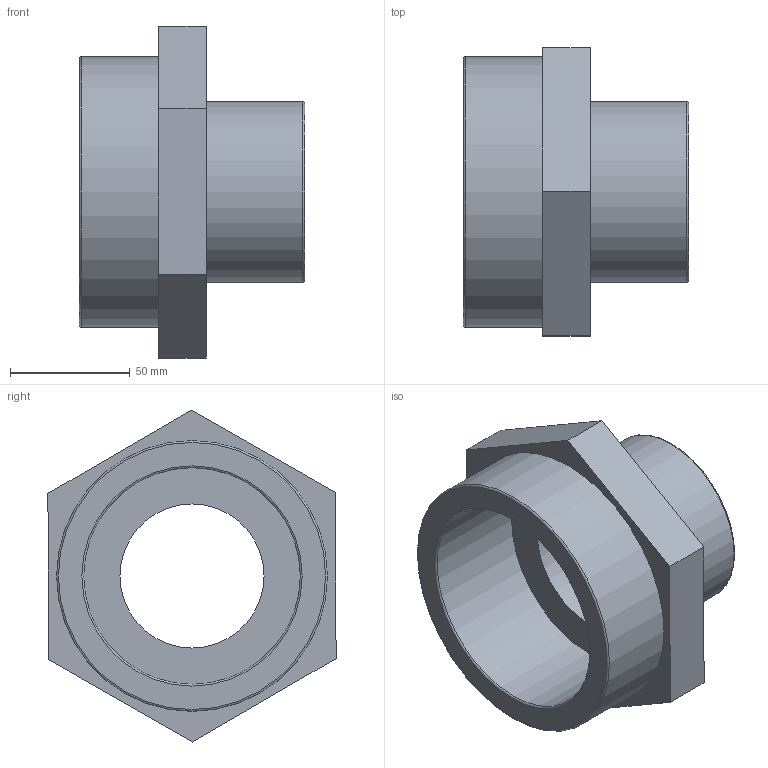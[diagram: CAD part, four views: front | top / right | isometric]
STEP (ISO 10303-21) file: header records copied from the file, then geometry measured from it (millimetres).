
FILE_DESCRIPTION(/* description */ ('PLASSON THR. REDUCING NIPPLE 4"-2.1/2" PVC'),/* implementation_level */ '2;1');
FILE_NAME(/* name */ 'C:\Dropbox\KIMPROJECTS-Inventor\99-16-3568-Processing\PVC Catalog 2017\051601\051601040025.ipt.stp',/* time_stamp */ '2017-12-07T16:01:07+02:00',/* author */ ('KIM'),/* organization */ (''),/* preprocessor_version */ 'ST-DEVELOPER v15.6',/* originating_system */ 'Autodesk Inventor 2015',/* authorisation */ '');
FILE_SCHEMA (('AUTOMOTIVE_DESIGN { 1 0 10303 214 3 1 1 }'));
Length unit declared in the file: millimetre
Products named in the file (1): 051601040025
Bounding box: 94 x 120.26 x 138.56 mm (x, y, z)
Volume: 334942.9 mm3; surface area: 70654.8 mm2
Topology: 1 solids, 1 shells, 19 faces, 38 edges, 24 vertices
Faces by surface type: plane 11, torus 4, cylinder 4
Full cylindrical faces by diameter (mm): 60.147 x1, 75.184 x1, 90.424 x1, 113.03 x1
Entity records: 480 total; most frequent: DIRECTION 82, CARTESIAN_POINT 74, ORIENTED_EDGE 60, EDGE_LOOP 32, AXIS2_PLACEMENT_3D 32, EDGE_CURVE 30, VERTEX_POINT 24, FACE_OUTER_BOUND 19
